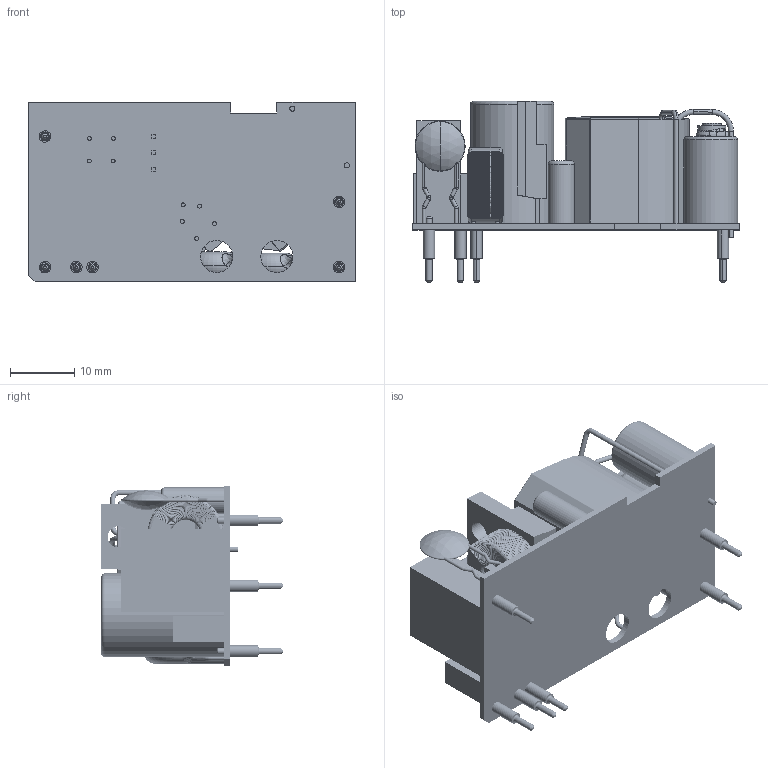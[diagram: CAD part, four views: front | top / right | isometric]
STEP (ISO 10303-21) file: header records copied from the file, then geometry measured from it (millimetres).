
FILE_DESCRIPTION (( 'STEP AP214' ), '1' );
FILE_NAME ('CFM25SXXX PL¦¨«~¹Ï(01)-1090421.STEP', '2020-04-21T03:35:56', ( '' ), ( '' ), 'SwSTEP 2.0', 'SolidWorks 2017', '' );
FILE_SCHEMA (( 'AUTOMOTIVE_DESIGN' ));
Length unit declared in the file: millimetre
Products named in the file (12): CFM25ｶ鷄IN-1090421; CFM25SXXX PCB-1051208; CFM25 L5; C陶瓷電容d8-1051118; CFM25 CY4 105,09,01; CFM25變壓器(參考); CFM25 CORE; (B)D4-1050901; 電晶體10mm; D4-1050901; CFM25SXXX PL成品圖(01)-1090421; CFM25SXXX PCB(02)-1090421
Assembly tree (17 placements, depth 2):
  CFM25SXXX PL成品圖(01)-1090421
    CFM25SXXX PCB(02)-1090421
    電晶體10mm
    CFM25 CORE
    D4-1050901
    C陶瓷電容d8-1051118
    CFM25變壓器(參考)
    CFM25 CY4 105,09,01  x2
    (B)D4-1050901
    CFM25 L5
    CFM25ｶ鷄IN-1090421  x6
    CFM25SXXX PCB-1051208
Bounding box: 50.8 x 28.2 x 27.94 mm (x, y, z)
Volume: 14330.5 mm3; surface area: 15063.8 mm2
Topology: 21 solids, 21 shells, 2848 faces, 7740 edges, 4712 vertices
Faces by surface type: cylinder 1254, bspline 1254, plane 246, torus 78, cone 12, sphere 4
Entity records: 119183 total; most frequent: CARTESIAN_POINT 38651, ORIENTED_EDGE 15062, DIRECTION 14259, EDGE_CURVE 7531, AXIS2_PLACEMENT_3D 6272, CIRCLE 4758, VERTEX_POINT 4590, EDGE_LOOP 2803
